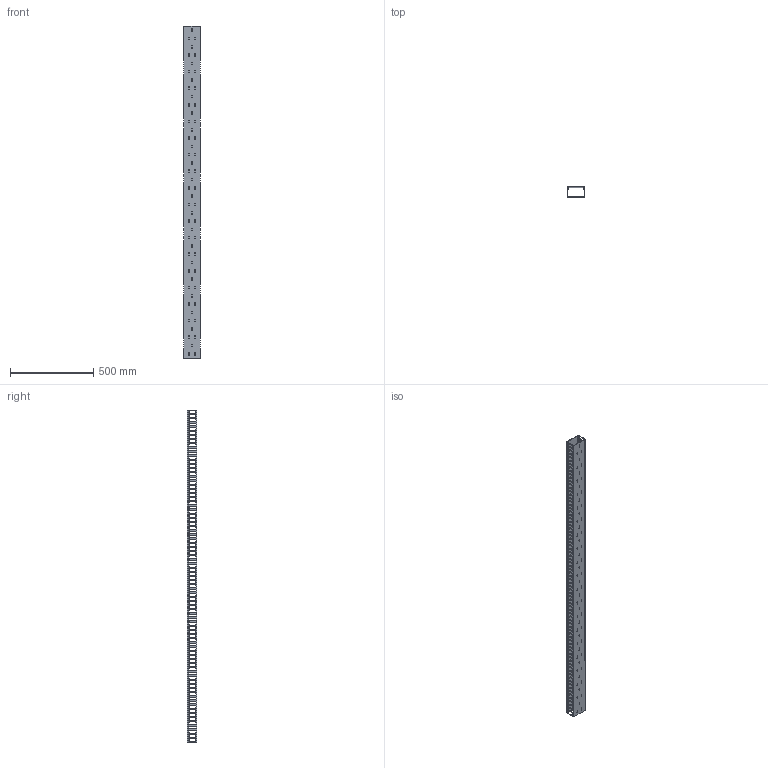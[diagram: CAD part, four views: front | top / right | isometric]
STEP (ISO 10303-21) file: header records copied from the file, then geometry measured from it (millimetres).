
FILE_DESCRIPTION (( 'STEP AP214' ), '1' );
FILE_NAME ('KD-106-20-LL.STEP', '2020-02-19T01:15:47', ( '' ), ( '' ), 'SwSTEP 2.0', 'SolidWorks 2018', '' );
FILE_SCHEMA (( 'AUTOMOTIVE_DESIGN' ));
Length unit declared in the file: millimetre
Products named in the file (3): KD-106-20-cover; KD-106-20-LL; KD-106-20-LL-body
Assembly tree (2 placements, depth 2):
  KD-106-20-LL
    KD-106-20-LL-body
    KD-106-20-cover
Bounding box: 100 x 60.17 x 2000 mm (x, y, z)
Volume: 969838.5 mm3; surface area: 1221968.2 mm2
Topology: 2 solids, 2 shells, 1651 faces, 4941 edges, 3294 vertices
Faces by surface type: cylinder 861, plane 790
Entity records: 57107 total; most frequent: DIRECTION 9975, CARTESIAN_POINT 9891, ORIENTED_EDGE 9882, EDGE_CURVE 4941, AXIS2_PLACEMENT_3D 3378, VERTEX_POINT 3294, VECTOR 3219, LINE 3219
